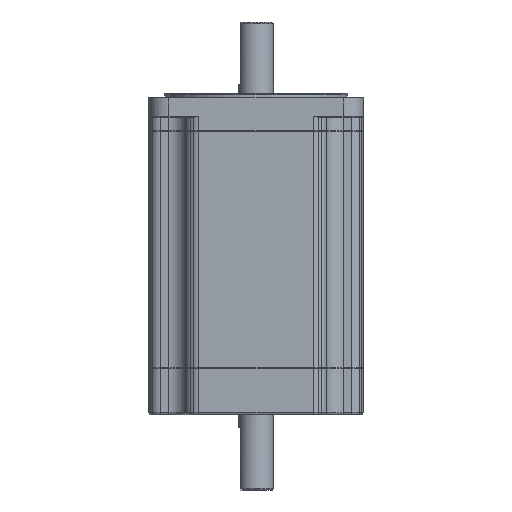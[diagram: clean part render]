
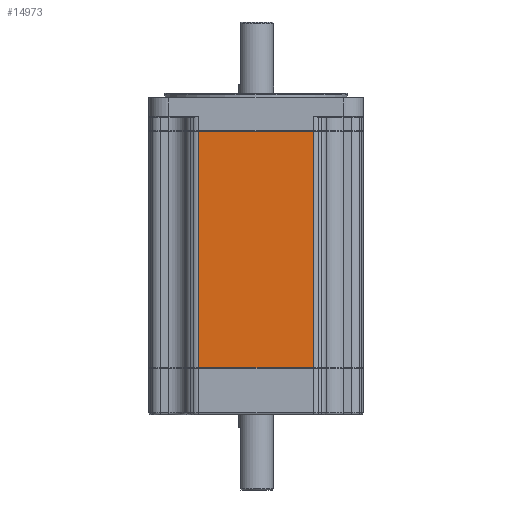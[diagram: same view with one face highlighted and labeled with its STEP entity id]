
A CAD part, front view. The second image highlights one B-rep face of the part: STEP entity #14973.
In plain terms, the highlighted planar face has unit normal (0, -1, 0).
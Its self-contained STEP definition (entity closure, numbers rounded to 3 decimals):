
#2442 = EDGE_LOOP ( 'NONE', ( #6516, #6518, #6517, #6519 ) ) ;
#3135 = CARTESIAN_POINT ( 'NONE',  ( -22.879, -42.75, -13.7 ) ) ;
#3225 = CARTESIAN_POINT ( 'NONE',  ( 22.879, -42.75, -13.7 ) ) ;
#3230 = CARTESIAN_POINT ( 'NONE',  ( 22.879, -42.75, -108. ) ) ;
#3273 = CARTESIAN_POINT ( 'NONE',  ( -22.879, -42.75, -108. ) ) ;
#6273 = VERTEX_POINT ( 'NONE', #3135 ) ;
#6363 = VERTEX_POINT ( 'NONE', #3225 ) ;
#6368 = VERTEX_POINT ( 'NONE', #3230 ) ;
#6411 = VERTEX_POINT ( 'NONE', #3273 ) ;
#6516 = ORIENTED_EDGE ( 'NONE', *, *, #14077, .F. ) ;
#6517 = ORIENTED_EDGE ( 'NONE', *, *, #14074, .T. ) ;
#6518 = ORIENTED_EDGE ( 'NONE', *, *, #14076, .T. ) ;
#6519 = ORIENTED_EDGE ( 'NONE', *, *, #14078, .T. ) ;
#8004 = LINE ( 'NONE', #17605, #13309 ) ;
#8005 = LINE ( 'NONE', #17614, #13311 ) ;
#8006 = LINE ( 'NONE', #17618, #13313 ) ;
#8007 = LINE ( 'NONE', #17620, #13315 ) ;
#8234 = FACE_OUTER_BOUND ( 'NONE', #2442, .T. ) ;
#11343 = PLANE ( 'NONE',  #13535 ) ;
#11344 = CARTESIAN_POINT ( 'NONE',  ( 22.879, -42.75, -108.2 ) ) ;
#11346 = DIRECTION ( 'NONE',  ( 0., 1., 0. ) ) ;
#11348 = DIRECTION ( 'NONE',  ( 0., 0., 1. ) ) ;
#13309 = VECTOR ( 'NONE', #17607, 1000. ) ;
#13311 = VECTOR ( 'NONE', #17616, 1000. ) ;
#13313 = VECTOR ( 'NONE', #17619, 1000. ) ;
#13315 = VECTOR ( 'NONE', #17622, 1000. ) ;
#13535 = AXIS2_PLACEMENT_3D ( 'NONE', #11344, #11346, #11348 ) ;
#14074 = EDGE_CURVE ( 'NONE', #6368, #6363, #8004, .T. ) ;
#14076 = EDGE_CURVE ( 'NONE', #6411, #6368, #8005, .T. ) ;
#14077 = EDGE_CURVE ( 'NONE', #6411, #6273, #8006, .T. ) ;
#14078 = EDGE_CURVE ( 'NONE', #6363, #6273, #8007, .T. ) ;
#14973 = ADVANCED_FACE ( 'NONE', ( #8234 ), #11343, .F. ) ;
#17605 = CARTESIAN_POINT ( 'NONE',  ( 22.879, -42.75, -108.2 ) ) ;
#17607 = DIRECTION ( 'NONE',  ( 0., 0., 1. ) ) ;
#17614 = CARTESIAN_POINT ( 'NONE',  ( 22.879, -42.75, -108. ) ) ;
#17616 = DIRECTION ( 'NONE',  ( 1., 0., 0. ) ) ;
#17618 = CARTESIAN_POINT ( 'NONE',  ( -22.879, -42.75, -108.2 ) ) ;
#17619 = DIRECTION ( 'NONE',  ( 0., 0., 1. ) ) ;
#17620 = CARTESIAN_POINT ( 'NONE',  ( 22.879, -42.75, -13.7 ) ) ;
#17622 = DIRECTION ( 'NONE',  ( -1., 0., 0. ) ) ;
